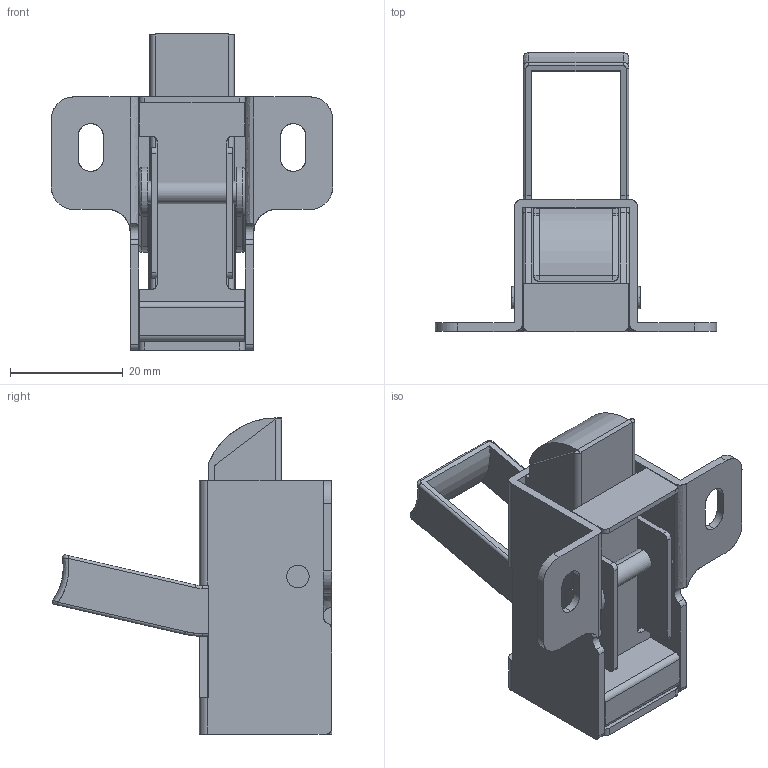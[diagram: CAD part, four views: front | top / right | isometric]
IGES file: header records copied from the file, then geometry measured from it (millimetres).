
Start section: SolidWorks IGES file using analytic representation for surfaces
Bounding box: 50 x 49.63 x 56.2 mm (x, y, z)
Surface area: 16262.5 mm2 (no closed solid volume)
Topology: 0 solids, 0 shells, 196 faces, 2324 edges, 2324 vertices
Faces by surface type: bspline 113, revolution 83
